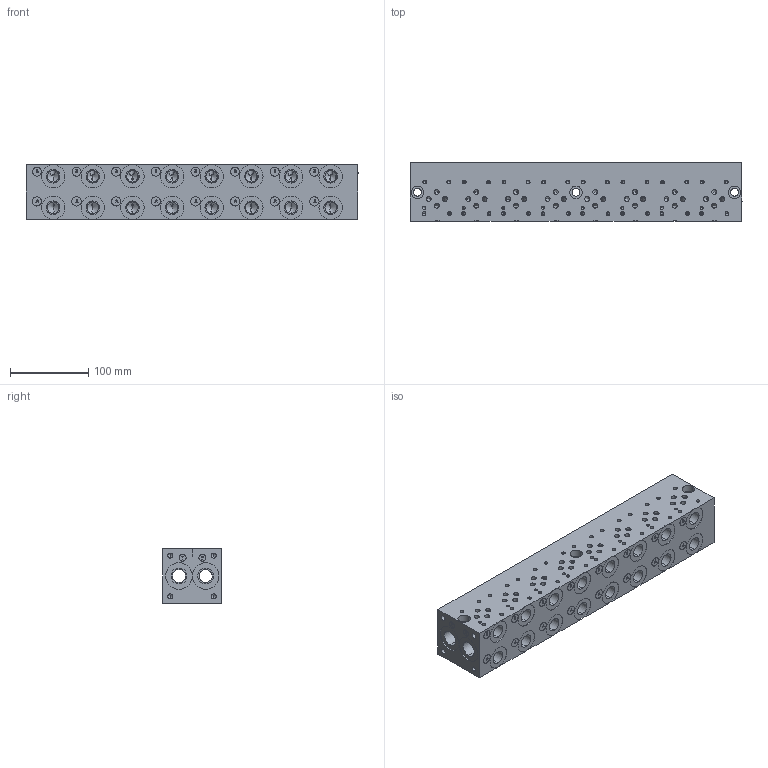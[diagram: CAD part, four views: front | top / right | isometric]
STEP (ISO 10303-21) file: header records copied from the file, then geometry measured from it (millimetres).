
FILE_DESCRIPTION (( 'STEP AP203' ), '1' );
FILE_NAME ('BM-ASP03S2-08-1_Z.STEP', '2015-01-06T15:40:28', ( '' ), ( '' ), 'SwSTEP 2.0', 'SolidWorks 2014', '' );
FILE_SCHEMA (( 'CONFIG_CONTROL_DESIGN' ));
Length unit declared in the file: inch
Products named in the file (1): BM-ASP03S2-08-1_Z
Bounding box: 425.45 x 74.93 x 69.85 mm (x, y, z)
Volume: 1885203 mm3; surface area: 234235.4 mm2
Topology: 1 solids, 1 shells, 1011 faces, 2581 edges, 1583 vertices
Faces by surface type: cylinder 404, plane 343, cone 180, bspline 84
Entity records: 36610 total; most frequent: CARTESIAN_POINT 13012, ORIENTED_EDGE 4850, DIRECTION 4707, EDGE_CURVE 2425, AXIS2_PLACEMENT_3D 1708, VERTEX_POINT 1583, LINE 1291, VECTOR 1291
